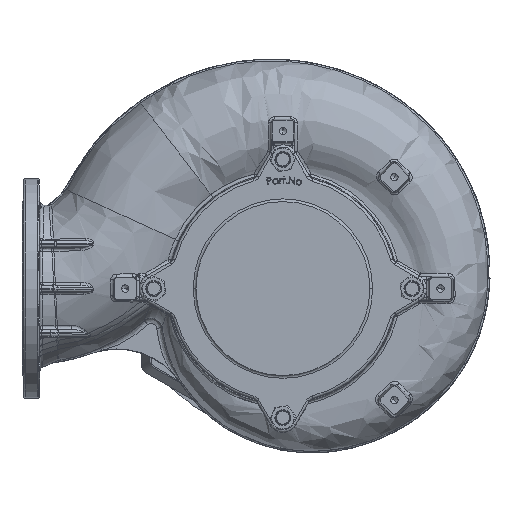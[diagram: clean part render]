
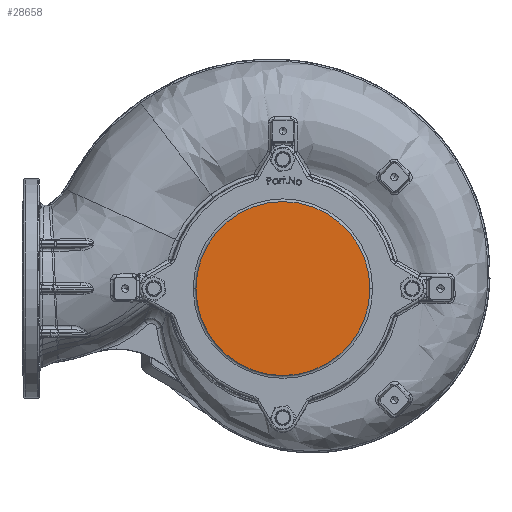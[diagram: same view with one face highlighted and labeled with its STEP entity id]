
A CAD part, front view. The second image highlights one B-rep face of the part: STEP entity #28658.
In plain terms, the highlighted planar face has unit normal (0, -1, 0).
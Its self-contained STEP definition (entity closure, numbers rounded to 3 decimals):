
#19832 = VERTEX_POINT ( 'NONE', #169287 ) ;
#28658 = ADVANCED_FACE ( 'NONE', ( #151390 ), #135642, .T. ) ;
#48109 = EDGE_LOOP ( 'NONE', ( #54148, #66529 ) ) ;
#53554 = DIRECTION ( 'NONE',  ( 0., 1., 0. ) ) ;
#54148 = ORIENTED_EDGE ( 'NONE', *, *, #189931, .F. ) ;
#57896 = DIRECTION ( 'NONE',  ( 0., -1., 0. ) ) ;
#66529 = ORIENTED_EDGE ( 'NONE', *, *, #151806, .F. ) ;
#71486 = CARTESIAN_POINT ( 'NONE',  ( 480., 0., 0. ) ) ;
#87337 = DIRECTION ( 'NONE',  ( -1., 0., 0. ) ) ;
#89597 = CIRCLE ( 'NONE', #111807, 160. ) ;
#111807 = AXIS2_PLACEMENT_3D ( 'NONE', #71486, #181895, #87337 ) ;
#135642 = PLANE ( 'NONE',  #171861 ) ;
#140071 = CARTESIAN_POINT ( 'NONE',  ( 320., 0., 0. ) ) ;
#147790 = CARTESIAN_POINT ( 'NONE',  ( 480., 0., 0. ) ) ;
#151390 = FACE_OUTER_BOUND ( 'NONE', #48109, .T. ) ;
#151806 = EDGE_CURVE ( 'NONE', #154962, #19832, #89597, .T. ) ;
#152133 = CARTESIAN_POINT ( 'NONE',  ( 480., 0., 125. ) ) ;
#154962 = VERTEX_POINT ( 'NONE', #140071 ) ;
#163686 = DIRECTION ( 'NONE',  ( -1., 0., 0. ) ) ;
#168094 = DIRECTION ( 'NONE',  ( 1., 0., 0. ) ) ;
#169287 = CARTESIAN_POINT ( 'NONE',  ( 640., 0., 0. ) ) ;
#171861 = AXIS2_PLACEMENT_3D ( 'NONE', #152133, #57896, #168094 ) ;
#179738 = CIRCLE ( 'NONE', #189848, 160. ) ;
#181895 = DIRECTION ( 'NONE',  ( 0., 1., 0. ) ) ;
#189848 = AXIS2_PLACEMENT_3D ( 'NONE', #147790, #53554, #163686 ) ;
#189931 = EDGE_CURVE ( 'NONE', #19832, #154962, #179738, .T. ) ;
